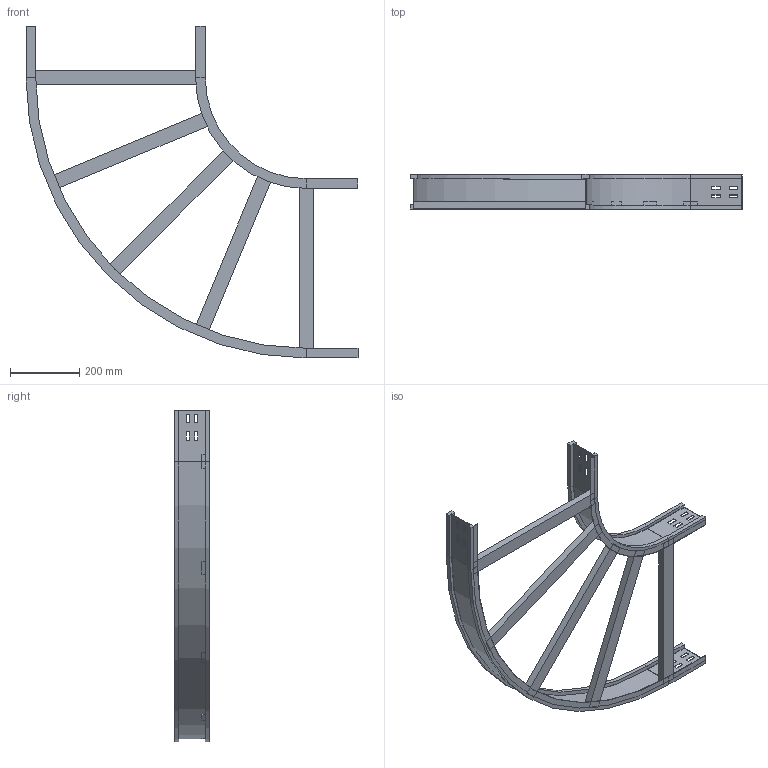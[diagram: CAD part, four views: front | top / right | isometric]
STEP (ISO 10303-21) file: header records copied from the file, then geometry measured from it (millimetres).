
FILE_DESCRIPTION (( 'STEP AP214' ), '1' );
FILE_NAME ('10S3D500.step', '2025-02-21T16:09:00', ( '' ), ( '' ), 'SwSTEP 2.0', 'SolidWorks 2023', '' );
FILE_SCHEMA (( 'AUTOMOTIVE_DESIGN' ));
Length unit declared in the file: millimetre
Products named in the file (4): LONGH.ESTERNO 90°_H100_R300+500; 10S3D500; TRAVERSINO_500; LONGH.INTERNO 90°_H100_R300
Assembly tree (7 placements, depth 2):
  10S3D500
    LONGH.INTERNO 90°_H100_R300
    LONGH.ESTERNO 90°_H100_R300+500
    TRAVERSINO_500  x5
Bounding box: 959 x 100 x 959 mm (x, y, z)
Volume: 3241806.2 mm3; surface area: 996717.2 mm2
Topology: 7 solids, 7 shells, 170 faces, 420 edges, 264 vertices
Faces by surface type: plane 158, cylinder 12
Entity records: 4493 total; most frequent: CARTESIAN_POINT 760, ORIENTED_EDGE 744, DIRECTION 708, EDGE_CURVE 372, LINE 348, VECTOR 348, VERTEX_POINT 232, AXIS2_PLACEMENT_3D 180
